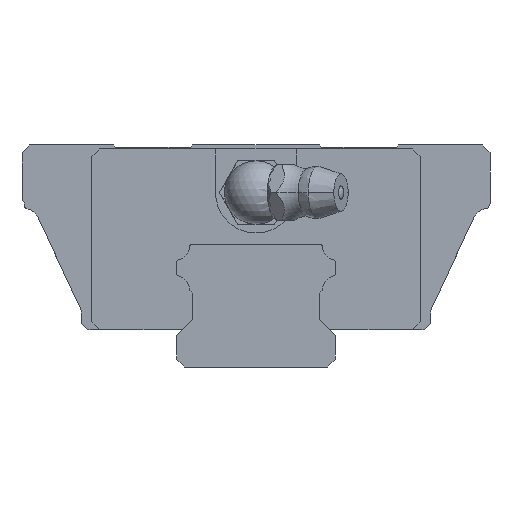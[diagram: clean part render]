
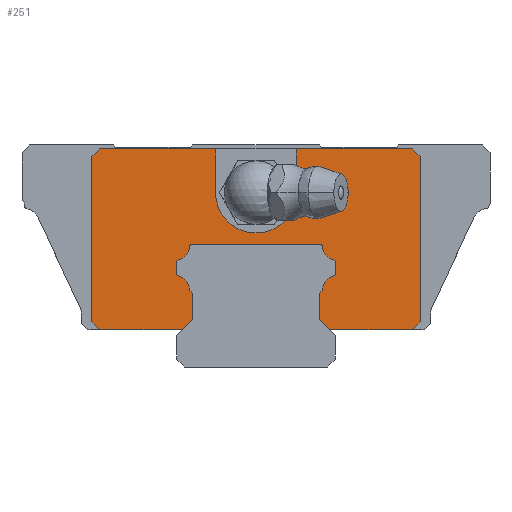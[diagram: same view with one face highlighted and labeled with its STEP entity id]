
A CAD part, front view. The second image highlights one B-rep face of the part: STEP entity #251.
In plain terms, the highlighted planar face has unit normal (0, -1, 0).
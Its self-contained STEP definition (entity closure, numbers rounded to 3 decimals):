
#251=ADVANCED_FACE('',(#586),#587,.T.);
#586=FACE_OUTER_BOUND('',#1117,.T.);
#587=PLANE('',#1118);
#1117=EDGE_LOOP('',(#2192,#2193,#2194,#2195,#2196,#2197,#2198,#2199,#2200,#2201,#2202,#2203,#2204,#2205,#2206,#2207,#2208,#2209,#2210,#2211,#2212,#2213,#2214,#2215,#2216,#2217,#2218,#2219,#2220,#2221,#2222,#2223,#2224));
#1118=AXIS2_PLACEMENT_3D('',#2225,#2226,#2227);
#2192=ORIENTED_EDGE('',*,*,#3866,.F.);
#2193=ORIENTED_EDGE('',*,*,#3964,.F.);
#2194=ORIENTED_EDGE('',*,*,#3917,.F.);
#2195=ORIENTED_EDGE('',*,*,#3965,.F.);
#2196=ORIENTED_EDGE('',*,*,#3966,.F.);
#2197=ORIENTED_EDGE('',*,*,#3967,.F.);
#2198=ORIENTED_EDGE('',*,*,#3784,.F.);
#2199=ORIENTED_EDGE('',*,*,#3781,.F.);
#2200=ORIENTED_EDGE('',*,*,#3876,.F.);
#2201=ORIENTED_EDGE('',*,*,#3968,.F.);
#2202=ORIENTED_EDGE('',*,*,#3969,.F.);
#2203=ORIENTED_EDGE('',*,*,#3970,.F.);
#2204=ORIENTED_EDGE('',*,*,#3890,.F.);
#2205=ORIENTED_EDGE('',*,*,#3849,.F.);
#2206=ORIENTED_EDGE('',*,*,#3971,.F.);
#2207=ORIENTED_EDGE('',*,*,#3972,.F.);
#2208=ORIENTED_EDGE('',*,*,#3973,.F.);
#2209=ORIENTED_EDGE('',*,*,#3974,.F.);
#2210=ORIENTED_EDGE('',*,*,#3975,.F.);
#2211=ORIENTED_EDGE('',*,*,#3976,.F.);
#2212=ORIENTED_EDGE('',*,*,#3977,.F.);
#2213=ORIENTED_EDGE('',*,*,#3978,.F.);
#2214=ORIENTED_EDGE('',*,*,#3903,.F.);
#2215=ORIENTED_EDGE('',*,*,#3888,.T.);
#2216=ORIENTED_EDGE('',*,*,#3979,.T.);
#2217=ORIENTED_EDGE('',*,*,#3653,.T.);
#2218=ORIENTED_EDGE('',*,*,#3980,.T.);
#2219=ORIENTED_EDGE('',*,*,#3900,.F.);
#2220=ORIENTED_EDGE('',*,*,#3981,.F.);
#2221=ORIENTED_EDGE('',*,*,#3982,.F.);
#2222=ORIENTED_EDGE('',*,*,#3983,.F.);
#2223=ORIENTED_EDGE('',*,*,#3984,.F.);
#2224=ORIENTED_EDGE('',*,*,#3845,.F.);
#2225=CARTESIAN_POINT('',(0.0,-10.1,22.0));
#2226=DIRECTION('',(0.0,-1.0,0.0));
#2227=DIRECTION('',(0.0,0.0,-1.0));
#3653=EDGE_CURVE('',#4326,#4330,#4332,.T.);
#3781=EDGE_CURVE('',#4577,#4579,#4580,.T.);
#3784=EDGE_CURVE('',#4579,#4584,#4585,.T.);
#3845=EDGE_CURVE('',#4692,#4694,#4695,.T.);
#3849=EDGE_CURVE('',#4700,#4702,#4703,.T.);
#3866=EDGE_CURVE('',#4731,#4692,#4733,.T.);
#3876=EDGE_CURVE('',#4749,#4577,#4751,.T.);
#3888=EDGE_CURVE('',#4768,#4766,#4769,.T.);
#3890=EDGE_CURVE('',#4702,#4771,#4772,.T.);
#3900=EDGE_CURVE('',#4785,#4787,#4788,.T.);
#3903=EDGE_CURVE('',#4768,#4781,#4792,.T.);
#3917=EDGE_CURVE('',#4814,#4816,#4817,.T.);
#3964=EDGE_CURVE('',#4816,#4731,#4888,.T.);
#3965=EDGE_CURVE('',#4889,#4814,#4890,.T.);
#3966=EDGE_CURVE('',#4891,#4889,#4892,.T.);
#3967=EDGE_CURVE('',#4584,#4891,#4893,.T.);
#3968=EDGE_CURVE('',#4894,#4749,#4895,.T.);
#3969=EDGE_CURVE('',#4896,#4894,#4897,.T.);
#3970=EDGE_CURVE('',#4771,#4896,#4898,.T.);
#3971=EDGE_CURVE('',#4899,#4700,#4900,.T.);
#3972=EDGE_CURVE('',#4901,#4899,#4902,.T.);
#3973=EDGE_CURVE('',#4903,#4901,#4904,.T.);
#3974=EDGE_CURVE('',#4905,#4903,#4906,.T.);
#3975=EDGE_CURVE('',#4907,#4905,#4908,.T.);
#3976=EDGE_CURVE('',#4909,#4907,#4910,.T.);
#3977=EDGE_CURVE('',#4911,#4909,#4912,.T.);
#3978=EDGE_CURVE('',#4781,#4911,#4913,.T.);
#3979=EDGE_CURVE('',#4766,#4326,#4914,.T.);
#3980=EDGE_CURVE('',#4330,#4787,#4915,.T.);
#3981=EDGE_CURVE('',#4916,#4785,#4917,.T.);
#3982=EDGE_CURVE('',#4918,#4916,#4919,.T.);
#3983=EDGE_CURVE('',#4920,#4918,#4921,.T.);
#3984=EDGE_CURVE('',#4694,#4920,#4922,.T.);
#4326=VERTEX_POINT('',#5446);
#4330=VERTEX_POINT('',#5451);
#4332=CIRCLE('',#5454,5.1);
#4577=VERTEX_POINT('',#5789);
#4579=VERTEX_POINT('',#5792);
#4580=CIRCLE('',#5793,0.3);
#4584=VERTEX_POINT('',#5798);
#4585=CIRCLE('',#5799,1.9);
#4692=VERTEX_POINT('',#5948);
#4694=VERTEX_POINT('',#5951);
#4695=LINE('',#5952,#5953);
#4700=VERTEX_POINT('',#5960);
#4702=VERTEX_POINT('',#5963);
#4703=CIRCLE('',#5964,0.3);
#4731=VERTEX_POINT('',#6001);
#4733=LINE('',#6004,#6005);
#4749=VERTEX_POINT('',#6029);
#4751=LINE('',#6032,#6033);
#4766=VERTEX_POINT('',#6050);
#4768=VERTEX_POINT('',#6053);
#4769=LINE('',#6054,#6055);
#4771=VERTEX_POINT('',#6058);
#4772=LINE('',#6059,#6060);
#4781=VERTEX_POINT('',#6073);
#4785=VERTEX_POINT('',#6079);
#4787=VERTEX_POINT('',#6082);
#4788=LINE('',#6083,#6084);
#4792=LINE('',#6090,#6091);
#4814=VERTEX_POINT('',#6120);
#4816=VERTEX_POINT('',#6123);
#4817=CIRCLE('',#6124,1.9);
#4888=LINE('',#6228,#6229);
#4889=VERTEX_POINT('',#6230);
#4890=CIRCLE('',#6231,0.3);
#4891=VERTEX_POINT('',#6232);
#4892=LINE('',#6233,#6234);
#4893=CIRCLE('',#6235,0.3);
#4894=VERTEX_POINT('',#6236);
#4895=CIRCLE('',#6237,0.3);
#4896=VERTEX_POINT('',#6238);
#4897=CIRCLE('',#6239,1.9);
#4898=CIRCLE('',#6240,0.3);
#4899=VERTEX_POINT('',#6241);
#4900=CIRCLE('',#6242,1.9);
#4901=VERTEX_POINT('',#6243);
#4902=LINE('',#6244,#6245);
#4903=VERTEX_POINT('',#6246);
#4904=LINE('',#6247,#6248);
#4905=VERTEX_POINT('',#6249);
#4906=LINE('',#6250,#6251);
#4907=VERTEX_POINT('',#6252);
#4908=LINE('',#6253,#6254);
#4909=VERTEX_POINT('',#6255);
#4910=LINE('',#6256,#6257);
#4911=VERTEX_POINT('',#6258);
#4912=LINE('',#6259,#6260);
#4913=LINE('',#6261,#6262);
#4914=CIRCLE('',#6263,5.1);
#4915=LINE('',#6264,#6265);
#4916=VERTEX_POINT('',#6266);
#4917=LINE('',#6267,#6268);
#4918=VERTEX_POINT('',#6269);
#4919=LINE('',#6270,#6271);
#4920=VERTEX_POINT('',#6272);
#4921=LINE('',#6273,#6274);
#4922=LINE('',#6275,#6276);
#5446=CARTESIAN_POINT('',(0.,-10.1,16.9));
#5451=CARTESIAN_POINT('',(-5.1,-10.1,22.0));
#5454=AXIS2_PLACEMENT_3D('',#7176,#7177,#7178);
#5789=CARTESIAN_POINT('',(-8.055,-10.1,15.5));
#5792=CARTESIAN_POINT('',(-8.354,-10.1,15.22));
#5793=AXIS2_PLACEMENT_3D('',#7420,#7421,#7422);
#5798=CARTESIAN_POINT('',(-9.775,-10.1,13.51));
#5799=AXIS2_PLACEMENT_3D('',#7427,#7428,#7429);
#5948=CARTESIAN_POINT('',(-8.0,-10.1,6.));
#5951=CARTESIAN_POINT('',(-9.3,-10.1,4.7));
#5952=CARTESIAN_POINT('',(4.,-10.1,18.));
#5953=VECTOR('',#7533,1000.0);
#5960=CARTESIAN_POINT('',(9.775,-10.1,11.49));
#5963=CARTESIAN_POINT('',(10.0,-10.1,11.781));
#5964=AXIS2_PLACEMENT_3D('',#7537,#7538,#7539);
#6001=CARTESIAN_POINT('',(-8.0,-10.1,9.3));
#6004=CARTESIAN_POINT('',(-8.0,-10.1,22.0));
#6005=VECTOR('',#7568,1000.0);
#6029=CARTESIAN_POINT('',(8.055,-10.1,15.5));
#6032=CARTESIAN_POINT('',(0.0,-10.1,15.5));
#6033=VECTOR('',#7578,1000.0);
#6050=CARTESIAN_POINT('',(5.1,-10.1,22.0));
#6053=CARTESIAN_POINT('',(5.1,-10.1,27.5));
#6054=CARTESIAN_POINT('',(5.1,-10.1,27.5));
#6055=VECTOR('',#7606,1000.0);
#6058=CARTESIAN_POINT('',(10.0,-10.1,13.219));
#6059=CARTESIAN_POINT('',(10.0,-10.1,22.0));
#6060=VECTOR('',#7608,1000.0);
#6073=CARTESIAN_POINT('',(19.7,-10.1,27.5));
#6079=CARTESIAN_POINT('',(-19.7,-10.1,27.5));
#6082=CARTESIAN_POINT('',(-5.1,-10.1,27.5));
#6083=CARTESIAN_POINT('',(-19.7,-10.1,27.5));
#6084=VECTOR('',#7622,1000.0);
#6090=CARTESIAN_POINT('',(-19.7,-10.1,27.5));
#6091=VECTOR('',#7625,1000.0);
#6120=CARTESIAN_POINT('',(-9.775,-10.1,11.49));
#6123=CARTESIAN_POINT('',(-8.349,-10.1,9.649));
#6124=AXIS2_PLACEMENT_3D('',#7649,#7650,#7651);
#6228=CARTESIAN_POINT('',(-10.35,-10.1,11.65));
#6229=VECTOR('',#7724,1000.0);
#6230=CARTESIAN_POINT('',(-10.0,-10.1,11.781));
#6231=AXIS2_PLACEMENT_3D('',#7725,#7726,#7727);
#6232=CARTESIAN_POINT('',(-10.0,-10.1,13.219));
#6233=CARTESIAN_POINT('',(-10.0,-10.1,22.0));
#6234=VECTOR('',#7728,1000.0);
#6235=AXIS2_PLACEMENT_3D('',#7729,#7730,#7731);
#6236=CARTESIAN_POINT('',(8.354,-10.1,15.22));
#6237=AXIS2_PLACEMENT_3D('',#7732,#7733,#7734);
#6238=CARTESIAN_POINT('',(9.775,-10.1,13.51));
#6239=AXIS2_PLACEMENT_3D('',#7735,#7736,#7737);
#6240=AXIS2_PLACEMENT_3D('',#7738,#7739,#7740);
#6241=CARTESIAN_POINT('',(8.349,-10.1,9.649));
#6242=AXIS2_PLACEMENT_3D('',#7741,#7742,#7743);
#6243=CARTESIAN_POINT('',(8.0,-10.1,9.3));
#6244=CARTESIAN_POINT('',(10.35,-10.1,11.65));
#6245=VECTOR('',#7744,1000.0);
#6246=CARTESIAN_POINT('',(8.0,-10.1,6.));
#6247=CARTESIAN_POINT('',(8.0,-10.1,22.0));
#6248=VECTOR('',#7745,1000.0);
#6249=CARTESIAN_POINT('',(9.3,-10.1,4.7));
#6250=CARTESIAN_POINT('',(-4.,-10.1,18.));
#6251=VECTOR('',#7746,1000.0);
#6252=CARTESIAN_POINT('',(19.7,-10.1,4.7));
#6253=CARTESIAN_POINT('',(19.7,-10.1,4.7));
#6254=VECTOR('',#7747,1000.0);
#6255=CARTESIAN_POINT('',(20.7,-10.1,5.7));
#6256=CARTESIAN_POINT('',(20.7,-10.1,5.7));
#6257=VECTOR('',#7748,1000.0);
#6258=CARTESIAN_POINT('',(20.7,-10.1,26.5));
#6259=CARTESIAN_POINT('',(20.7,-10.1,26.5));
#6260=VECTOR('',#7749,1000.0);
#6261=CARTESIAN_POINT('',(19.7,-10.1,27.5));
#6262=VECTOR('',#7750,1000.0);
#6263=AXIS2_PLACEMENT_3D('',#7751,#7752,#7753);
#6264=CARTESIAN_POINT('',(-5.1,-10.1,22.0));
#6265=VECTOR('',#7754,1000.0);
#6266=CARTESIAN_POINT('',(-20.7,-10.1,26.5));
#6267=CARTESIAN_POINT('',(-20.7,-10.1,26.5));
#6268=VECTOR('',#7755,1000.0);
#6269=CARTESIAN_POINT('',(-20.7,-10.1,5.7));
#6270=CARTESIAN_POINT('',(-20.7,-10.1,5.7));
#6271=VECTOR('',#7756,1000.0);
#6272=CARTESIAN_POINT('',(-19.7,-10.1,4.7));
#6273=CARTESIAN_POINT('',(-19.7,-10.1,4.7));
#6274=VECTOR('',#7757,1000.0);
#6275=CARTESIAN_POINT('',(19.7,-10.1,4.7));
#6276=VECTOR('',#7758,1000.0);
#7176=CARTESIAN_POINT('',(0.0,-10.1,22.0));
#7177=DIRECTION('',(0.0,1.0,0.0));
#7178=DIRECTION('',(-1.0,0.0,0.0));
#7420=CARTESIAN_POINT('',(-8.055,-10.1,15.2));
#7421=DIRECTION('',(0.0,-1.0,0.0));
#7422=DIRECTION('',(0.0,0.0,-1.0));
#7427=CARTESIAN_POINT('',(-10.249,-10.1,15.349));
#7428=DIRECTION('',(0.0,1.0,0.0));
#7429=DIRECTION('',(0.0,0.0,-1.0));
#7533=DIRECTION('',(-0.707,0.0,-0.707));
#7537=CARTESIAN_POINT('',(9.7,-10.1,11.781));
#7538=DIRECTION('',(0.0,-1.0,0.0));
#7539=DIRECTION('',(0.0,0.0,-1.0));
#7568=DIRECTION('',(0.0,0.0,-1.0));
#7578=DIRECTION('',(-1.0,0.0,0.0));
#7606=DIRECTION('',(0.0,0.0,-1.0));
#7608=DIRECTION('',(0.0,0.0,1.0));
#7622=DIRECTION('',(1.0,0.0,0.0));
#7625=DIRECTION('',(1.0,0.0,0.0));
#7649=CARTESIAN_POINT('',(-10.249,-10.1,9.651));
#7650=DIRECTION('',(0.0,1.0,0.0));
#7651=DIRECTION('',(0.0,0.0,-1.0));
#7724=DIRECTION('',(0.707,0.0,-0.707));
#7725=CARTESIAN_POINT('',(-9.7,-10.1,11.781));
#7726=DIRECTION('',(0.0,-1.0,0.0));
#7727=DIRECTION('',(0.0,0.0,-1.0));
#7728=DIRECTION('',(0.0,0.0,-1.0));
#7729=CARTESIAN_POINT('',(-9.7,-10.1,13.219));
#7730=DIRECTION('',(0.0,-1.0,0.0));
#7731=DIRECTION('',(0.0,0.0,-1.0));
#7732=CARTESIAN_POINT('',(8.055,-10.1,15.2));
#7733=DIRECTION('',(0.0,-1.0,0.0));
#7734=DIRECTION('',(0.0,0.0,-1.0));
#7735=CARTESIAN_POINT('',(10.249,-10.1,15.349));
#7736=DIRECTION('',(0.0,1.0,0.0));
#7737=DIRECTION('',(0.0,0.0,-1.0));
#7738=CARTESIAN_POINT('',(9.7,-10.1,13.219));
#7739=DIRECTION('',(0.0,-1.0,0.0));
#7740=DIRECTION('',(0.0,0.0,-1.0));
#7741=CARTESIAN_POINT('',(10.249,-10.1,9.651));
#7742=DIRECTION('',(0.0,1.0,0.0));
#7743=DIRECTION('',(0.0,0.0,-1.0));
#7744=DIRECTION('',(0.707,0.0,0.707));
#7745=DIRECTION('',(0.0,0.0,1.0));
#7746=DIRECTION('',(-0.707,0.0,0.707));
#7747=DIRECTION('',(-1.0,0.0,0.0));
#7748=DIRECTION('',(-0.707,0.0,-0.707));
#7749=DIRECTION('',(0.0,0.0,-1.0));
#7750=DIRECTION('',(0.707,0.0,-0.707));
#7751=CARTESIAN_POINT('',(0.0,-10.1,22.0));
#7752=DIRECTION('',(0.0,1.0,0.0));
#7753=DIRECTION('',(-1.0,0.0,0.0));
#7754=DIRECTION('',(0.0,0.0,1.0));
#7755=DIRECTION('',(0.707,0.0,0.707));
#7756=DIRECTION('',(0.0,0.0,1.0));
#7757=DIRECTION('',(-0.707,0.0,0.707));
#7758=DIRECTION('',(-1.0,0.0,0.0));
